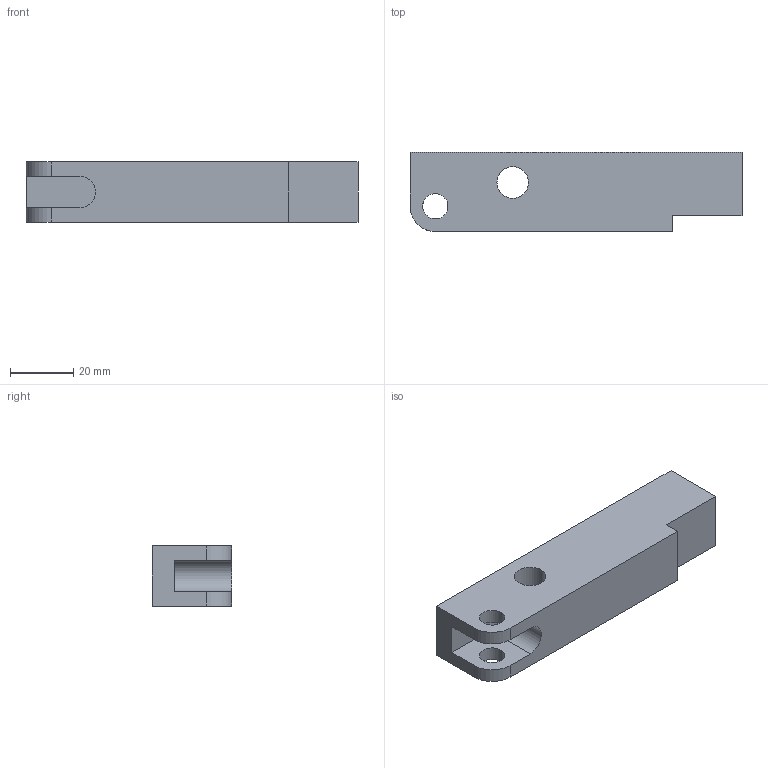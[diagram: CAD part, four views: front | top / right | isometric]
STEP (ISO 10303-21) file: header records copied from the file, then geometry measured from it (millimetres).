
FILE_DESCRIPTION (( 'STEP AP203' ), '1' );
FILE_NAME ('4193 552.STEP', '2017-11-29T09:49:53', ( '' ), ( '' ), 'SwSTEP 2.0', 'SolidWorks 2015', '' );
FILE_SCHEMA (( 'CONFIG_CONTROL_DESIGN' ));
Length unit declared in the file: millimetre
Products named in the file (1): 4193 552
Bounding box: 105 x 25 x 19 mm (x, y, z)
Volume: 41949.9 mm3; surface area: 11063.9 mm2
Topology: 1 solids, 1 shells, 20 faces, 54 edges, 36 vertices
Faces by surface type: plane 11, cylinder 9
Entity records: 725 total; most frequent: DIRECTION 114, CARTESIAN_POINT 111, ORIENTED_EDGE 108, EDGE_CURVE 54, AXIS2_PLACEMENT_3D 39, LINE 36, VERTEX_POINT 36, VECTOR 36
